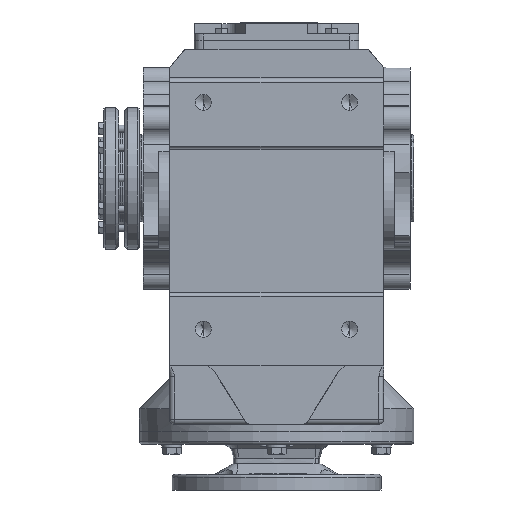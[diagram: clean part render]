
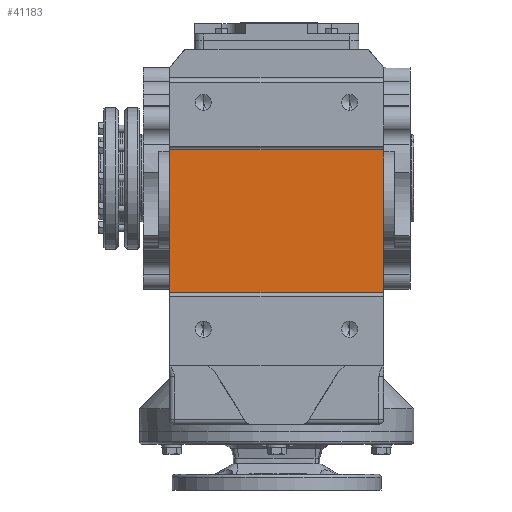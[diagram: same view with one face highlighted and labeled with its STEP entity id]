
A CAD part, front view. The second image highlights one B-rep face of the part: STEP entity #41183.
In plain terms, the highlighted planar face has unit normal (0, -1, 0).
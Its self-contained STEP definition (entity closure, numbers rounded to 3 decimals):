
#1534 = AXIS2_PLACEMENT_3D ( 'NONE', #43638, #43643, #43644 ) ;
#2114 = CARTESIAN_POINT ( 'NONE',  ( -117., -260., -125. ) ) ;
#5969 = FACE_OUTER_BOUND ( 'NONE', #53703, .T. ) ;
#7759 = LINE ( 'NONE', #38893, #7765 ) ;
#7761 = LINE ( 'NONE', #38882, #7763 ) ;
#7763 = VECTOR ( 'NONE', #38867, 1000. ) ;
#7764 = LINE ( 'NONE', #38914, #7767 ) ;
#7765 = VECTOR ( 'NONE', #38908, 1000. ) ;
#7767 = VECTOR ( 'NONE', #38920, 1000. ) ;
#13806 = VERTEX_POINT ( 'NONE', #49841 ) ;
#13823 = VERTEX_POINT ( 'NONE', #49873 ) ;
#13833 = VERTEX_POINT ( 'NONE', #49892 ) ;
#18173 = CARTESIAN_POINT ( 'NONE',  ( 117., -260., 31. ) ) ;
#18176 = DIRECTION ( 'NONE',  ( 0., 0., 1. ) ) ;
#20932 = EDGE_CURVE ( 'NONE', #13806, #13833, #7761, .T. ) ;
#20933 = EDGE_CURVE ( 'NONE', #39145, #13806, #7759, .T. ) ;
#20934 = EDGE_CURVE ( 'NONE', #39145, #13823, #7764, .T. ) ;
#22776 = EDGE_CURVE ( 'NONE', #13823, #13833, #49678, .T. ) ;
#38867 = DIRECTION ( 'NONE',  ( 1., 0., 0. ) ) ;
#38882 = CARTESIAN_POINT ( 'NONE',  ( -145., -260., 31. ) ) ;
#38893 = CARTESIAN_POINT ( 'NONE',  ( -117., -260., 31. ) ) ;
#38908 = DIRECTION ( 'NONE',  ( 0., 0., 1. ) ) ;
#38914 = CARTESIAN_POINT ( 'NONE',  ( -145., -260., -125. ) ) ;
#38920 = DIRECTION ( 'NONE',  ( 1., 0., 0. ) ) ;
#39145 = VERTEX_POINT ( 'NONE', #2114 ) ;
#41183 = ADVANCED_FACE ( 'NONE', ( #5969 ), #43640, .T. ) ;
#43638 = CARTESIAN_POINT ( 'NONE',  ( -145., -260., 31. ) ) ;
#43640 = PLANE ( 'NONE',  #1534 ) ;
#43643 = DIRECTION ( 'NONE',  ( 0., -1., 0. ) ) ;
#43644 = DIRECTION ( 'NONE',  ( 0., 0., -1. ) ) ;
#49678 = LINE ( 'NONE', #18173, #49680 ) ;
#49680 = VECTOR ( 'NONE', #18176, 1000. ) ;
#49841 = CARTESIAN_POINT ( 'NONE',  ( -117., -260., 31. ) ) ;
#49873 = CARTESIAN_POINT ( 'NONE',  ( 117., -260., -125. ) ) ;
#49892 = CARTESIAN_POINT ( 'NONE',  ( 117., -260., 31. ) ) ;
#53703 = EDGE_LOOP ( 'NONE', ( #55515, #55516, #55517, #55518 ) ) ;
#55515 = ORIENTED_EDGE ( 'NONE', *, *, #20932, .F. ) ;
#55516 = ORIENTED_EDGE ( 'NONE', *, *, #20933, .F. ) ;
#55517 = ORIENTED_EDGE ( 'NONE', *, *, #20934, .T. ) ;
#55518 = ORIENTED_EDGE ( 'NONE', *, *, #22776, .T. ) ;
